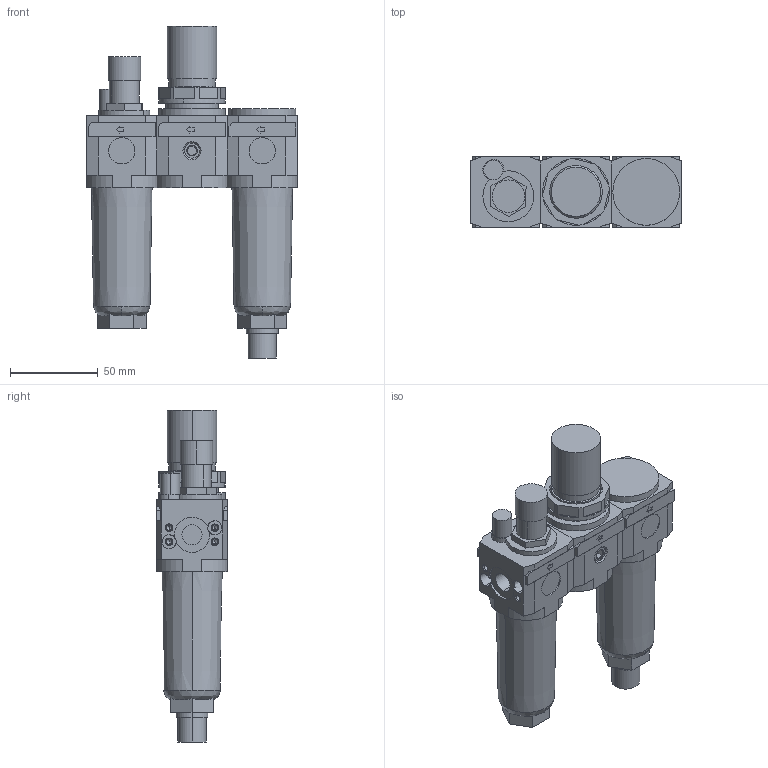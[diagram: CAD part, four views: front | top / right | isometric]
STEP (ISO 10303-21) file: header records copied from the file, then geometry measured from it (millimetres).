
FILE_DESCRIPTION((''),'2;1');
FILE_NAME('I:\DOC-EDP\Lib-3d\FRL\17107B_.stp','2003-06-16T14:50:08',('maffial1'),(''),'Autodesk Inventor 7','Autodesk Inventor 7','');
FILE_SCHEMA(('AUTOMOTIVE_DESIGN { 1 0 10303 214 1 1 1 1 }'));
Length unit declared in the file: millimetre
Products named in the file (7): 17107B_; 17101B_; 17103B; 17102B_; 17102B_(1); RS_1701_12; RK_1701_020
Assembly tree (6 placements, depth 3):
  17107B_
    17101B_
    17103B
    17102B_
      17102B_(1)
      RS_1701_12
      RK_1701_020
Bounding box: 120 x 40 x 189 mm (x, y, z)
Volume: 361611.2 mm3; surface area: 72293.1 mm2
Topology: 5 solids, 11 shells, 513 faces, 1261 edges, 795 vertices
Faces by surface type: plane 185, bspline 170, cylinder 102, cone 52, torus 4
Entity records: 16292 total; most frequent: CARTESIAN_POINT 4476, ORIENTED_EDGE 2450, DIRECTION 2304, EDGE_CURVE 1225, VERTEX_POINT 795, VECTOR 786, LINE 786, AXIS2_PLACEMENT_3D 759
